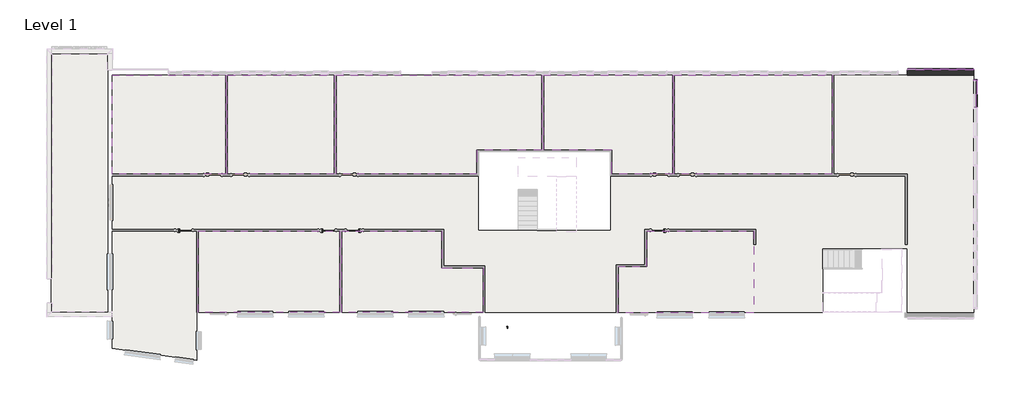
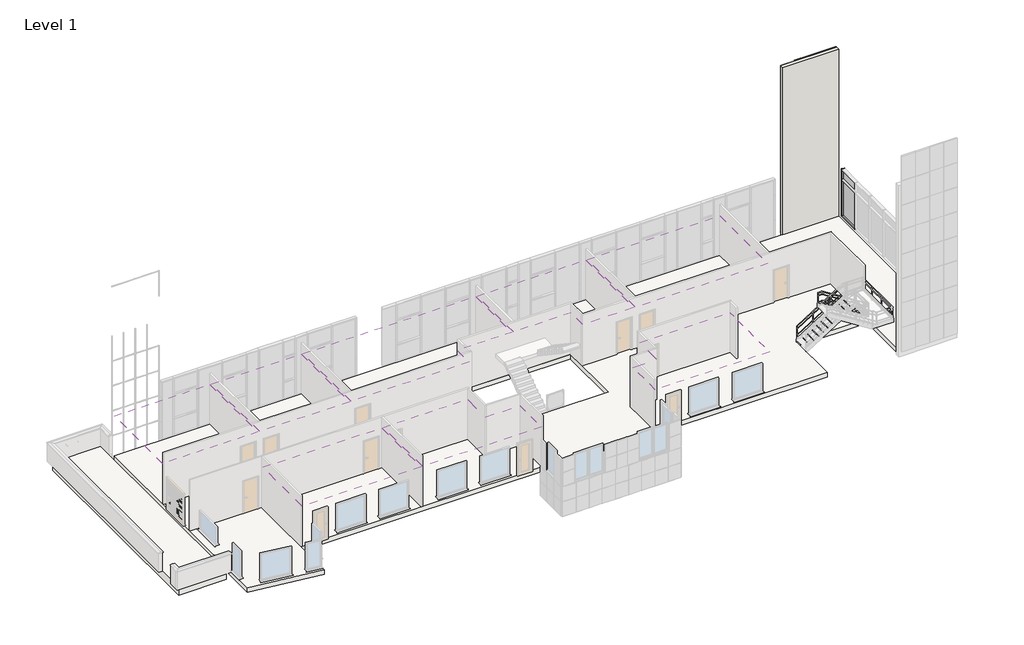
# One storey, part 7 of 10: 56 members, 30 plates, 8 coverings, 1 proxy, 1 roof, 1 slab, 1 wall.
"""IFC4 building model written with IfcOpenShell, lengths in millimetres."""

from ifc_helpers import new_model, si_unit, frame, origin, place, context, project, spatial, polyline, outline, extrude, faceted_brep, transform, mapped, element, save
from components import support_metal_circular_standard_a779fbb7, rectangular_mullion_25x25mm_3039a083, rectangular_mullion_25x25mm_fa774699, rectangular_mullion_25x25mm_154c87ff, rectangular_mullion_25x25mm_39486c0a, rectangular_mullion_25x25mm_7ca17579, rectangular_mullion_25x25mm_da6cf454, rectangular_mullion_25x25mm_b3a713a3, rectangular_mullion_50x180mm_b21090a6, rectangular_mullion_50x180mm_1be9a22b, rectangular_mullion_50x180mm_f9fd6882, curtain_panels_solid_solid_panel_green_a5cb1202, system_panel_glazed_206f5d08, system_panel_glazed_f3953a00

model = new_model("IFC4")

# Units and contexts
model_context = context("Model", 3, world=origin())
ifc_project = project(units=[si_unit("LENGTHUNIT", "METRE", prefix="MILLI")], contexts=[model_context])

# Site, building, storey
site = spatial("IfcSite", under=ifc_project)
building = spatial("IfcBuilding", under=site)
storey = spatial("IfcBuildingStorey", under=building, Name="Level 1", Elevation=3750.0)

# Proxy
placement = place(None, origin())
support_metal_circular_standard_shape = support_metal_circular_standard_a779fbb7(model_context)
element("IfcBuildingElementProxy", 1, Name="Support-Metal-Circular : Standard", ObjectType="Support-Metal-Circular : Standard", at=placement, inside=storey, context=model_context, shape_type="MappedRepresentation", body=[
    mapped(support_metal_circular_standard_shape, transform((18998.2942367, -4075.5053409, 3755.0), x_axis=(1.0, 0.0, 0.0), y_axis=(0.0, 1.0, 0.0), z_axis=(0.0, 0.0, 1.0))),
])

# Coverings
element("IfcCovering", 2, ObjectType="600x600mm_Grid", at=placement, inside=storey, context=model_context, shape_type="SweptSolid", body=[
    extrude(outline(polyline([(-1429.2223222, 3884.8025486), (-1429.2223222, 9007.4946591), (4433.2942367, 9007.4946591), (4433.2942367, 3884.8025486), (-1429.2223222, 3884.8025486)])), frame((0.0, 0.0, 6350.0), z_axis=(0.0, 0.0, 1.0), x_axis=(1.0, 0.0, 0.0)), (0.0, 0.0, 1.0), 52.0),
])
element("IfcCovering", 3, ObjectType="600x600mm_Grid", at=placement, inside=storey, context=model_context, shape_type="SweptSolid", body=[
    extrude(outline(polyline([(4528.2942367, 9007.4946591), (10058.2942367, 9007.4946591), (10058.2942367, 3884.8025486), (4528.2942367, 3884.8025486), (4528.2942367, 9007.4946591)])), frame((0.0, 0.0, 6350.0), z_axis=(0.0, 0.0, 1.0), x_axis=(1.0, 0.0, 0.0)), (0.0, 0.0, 1.0), 52.0),
])
element("IfcCovering", 4, ObjectType="600x600mm_Grid", at=placement, inside=storey, context=model_context, shape_type="SweptSolid", body=[
    extrude(outline(polyline([(10153.2942367, 9007.4946591), (20770.7942367, 9007.4946591), (20770.7942367, 5143.5025486), (17410.7942367, 5143.5025486), (17410.7942367, 3884.8025486), (10153.2942367, 3884.8025486), (10153.2942367, 9007.4946591)])), frame((0.0, 0.0, 6350.0), z_axis=(0.0, 0.0, 1.0), x_axis=(1.0, 0.0, 0.0)), (0.0, 0.0, 1.0), 52.0),
])
element("IfcCovering", 5, ObjectType="600x600mm_Grid", at=placement, inside=storey, context=model_context, shape_type="SweptSolid", body=[
    extrude(outline(polyline([(20865.7942367, 9007.4946591), (27533.2942367, 9007.4946591), (27533.2942367, 3884.8025486), (24393.2942367, 3884.8025486), (24393.2942367, 5143.5025486), (20865.7942367, 5143.5025486), (20865.7942367, 9007.4946591)])), frame((0.0, 0.0, 6350.0), z_axis=(0.0, 0.0, 1.0), x_axis=(1.0, 0.0, 0.0)), (0.0, 0.0, 1.0), 52.0),
])
element("IfcCovering", 6, ObjectType="600x600mm_Grid", at=placement, inside=storey, context=model_context, shape_type="SweptSolid", body=[
    extrude(outline(polyline([(27628.2942367, 9007.4946591), (35770.7942367, 9007.4946591), (35770.7942367, 3884.8025486), (27628.2942367, 3884.8025486), (27628.2942367, 9007.4946591)])), frame((0.0, 0.0, 6350.0), z_axis=(0.0, 0.0, 1.0), x_axis=(1.0, 0.0, 0.0)), (0.0, 0.0, 1.0), 52.0),
])
element("IfcCovering", 7, ObjectType="600x600mm_Grid", at=placement, inside=storey, context=model_context, shape_type="SweptSolid", body=[
    extrude(outline(polyline([(10335.7942367, 939.9946591), (10335.7942367, -3259.5053409), (3030.7942367, -3259.5053409), (3030.7942367, 939.9946591), (10335.7942367, 939.9946591)])), frame((0.0, 0.0, 6350.0), z_axis=(0.0, 0.0, 1.0), x_axis=(1.0, 0.0, 0.0)), (0.0, 0.0, 1.0), 52.0),
])
element("IfcCovering", 8, ObjectType="600x600mm_Grid", at=placement, inside=storey, context=model_context, shape_type="SweptSolid", body=[
    extrude(outline(polyline([(17735.7942367, -3259.5053409), (10430.7942367, -3259.5053409), (10430.7942367, 939.9946591), (15610.7942367, 939.9946591), (15610.7942367, -955.0053409), (17735.7942367, -955.0053409), (17735.7942367, -3259.5053409)])), frame((0.0, 0.0, 6350.0), z_axis=(0.0, 0.0, 1.0), x_axis=(1.0, 0.0, 0.0)), (0.0, 0.0, 1.0), 52.0),
])
element("IfcCovering", 9, ObjectType="600x600mm_Grid", at=placement, inside=storey, context=model_context, shape_type="SweptSolid", body=[
    extrude(outline(polyline([(31736.4942371, 149.3025492), (31736.4942371, -3285.0053409), (24710.7942367, -3285.0053409), (24710.7942367, -895.6472731), (26193.2942367, -895.6472731), (26193.2942367, 939.9946591), (31736.4942371, 939.9946591), (31736.4942371, 149.3025492)])), frame((0.0, 0.0, 6350.0), z_axis=(0.0, 0.0, 1.0), x_axis=(1.0, 0.0, 0.0)), (0.0, 0.0, 1.0), 52.0),
])

# Members
rectangular_mullion_25x25mm_shape = rectangular_mullion_25x25mm_3039a083(model_context)
element("IfcMember", 10, ObjectType="Rectangular Mullion : 25x25mm", at=placement, inside=storey, context=model_context, shape_type="MappedRepresentation", body=[
    mapped(rectangular_mullion_25x25mm_shape, transform((42227.6692365, 9282.4946591, 3775.0), x_axis=(-1.0, 0.0, 0.0), y_axis=(0.0, 1.0, 0.0), z_axis=(0.0, 0.0, -1.0))),
])
element("IfcMember", 11, ObjectType="Rectangular Mullion : 25x25mm", at=placement, inside=storey, context=model_context, shape_type="MappedRepresentation", body=[
    mapped(rectangular_mullion_25x25mm_shape, transform((41374.5442367, 9282.4946591, 3775.0), x_axis=(-1.0, 0.0, 0.0), y_axis=(0.0, 1.0, 0.0), z_axis=(0.0, 0.0, -1.0))),
])
element("IfcMember", 12, ObjectType="Rectangular Mullion : 25x25mm", at=placement, inside=storey, context=model_context, shape_type="MappedRepresentation", body=[
    mapped(rectangular_mullion_25x25mm_shape, transform((40521.4192368, 9282.4946591, 3775.0), x_axis=(-1.0, 0.0, 0.0), y_axis=(0.0, 1.0, 0.0), z_axis=(0.0, 0.0, -1.0))),
])
rectangular_mullion_25x25mm_2_shape = rectangular_mullion_25x25mm_fa774699(model_context)
element("IfcMember", 13, ObjectType="Rectangular Mullion : 25x25mm", at=placement, inside=storey, context=model_context, shape_type="MappedRepresentation", body=[
    mapped(rectangular_mullion_25x25mm_2_shape, transform((42227.6692365, 9282.4946591, 5308.9285714), x_axis=(-1.0, 0.0, 0.0), y_axis=(0.0, 1.0, 0.0), z_axis=(0.0, 0.0, -1.0))),
])
element("IfcMember", 14, ObjectType="Rectangular Mullion : 25x25mm", at=placement, inside=storey, context=model_context, shape_type="MappedRepresentation", body=[
    mapped(rectangular_mullion_25x25mm_2_shape, transform((42227.6692365, 9282.4946591, 6855.3571429), x_axis=(-1.0, 0.0, 0.0), y_axis=(0.0, 1.0, 0.0), z_axis=(0.0, 0.0, -1.0))),
])
element("IfcMember", 15, ObjectType="Rectangular Mullion : 25x25mm", at=placement, inside=storey, context=model_context, shape_type="MappedRepresentation", body=[
    mapped(rectangular_mullion_25x25mm_2_shape, transform((42227.6692365, 9282.4946591, 8401.7857143), x_axis=(-1.0, 0.0, 0.0), y_axis=(0.0, 1.0, 0.0), z_axis=(0.0, 0.0, -1.0))),
])
element("IfcMember", 16, ObjectType="Rectangular Mullion : 25x25mm", at=placement, inside=storey, context=model_context, shape_type="MappedRepresentation", body=[
    mapped(rectangular_mullion_25x25mm_2_shape, transform((42227.6692365, 9282.4946591, 9948.2142857), x_axis=(-1.0, 0.0, 0.0), y_axis=(0.0, 1.0, 0.0), z_axis=(0.0, 0.0, -1.0))),
])
element("IfcMember", 17, ObjectType="Rectangular Mullion : 25x25mm", at=placement, inside=storey, context=model_context, shape_type="MappedRepresentation", body=[
    mapped(rectangular_mullion_25x25mm_2_shape, transform((41374.5442367, 9282.4946591, 5308.9285714), x_axis=(-1.0, 0.0, 0.0), y_axis=(0.0, 1.0, 0.0), z_axis=(0.0, 0.0, -1.0))),
])
element("IfcMember", 18, ObjectType="Rectangular Mullion : 25x25mm", at=placement, inside=storey, context=model_context, shape_type="MappedRepresentation", body=[
    mapped(rectangular_mullion_25x25mm_2_shape, transform((41374.5442367, 9282.4946591, 6855.3571429), x_axis=(-1.0, 0.0, 0.0), y_axis=(0.0, 1.0, 0.0), z_axis=(0.0, 0.0, -1.0))),
])
element("IfcMember", 19, ObjectType="Rectangular Mullion : 25x25mm", at=placement, inside=storey, context=model_context, shape_type="MappedRepresentation", body=[
    mapped(rectangular_mullion_25x25mm_2_shape, transform((41374.5442367, 9282.4946591, 8401.7857143), x_axis=(-1.0, 0.0, 0.0), y_axis=(0.0, 1.0, 0.0), z_axis=(0.0, 0.0, -1.0))),
])
element("IfcMember", 20, ObjectType="Rectangular Mullion : 25x25mm", at=placement, inside=storey, context=model_context, shape_type="MappedRepresentation", body=[
    mapped(rectangular_mullion_25x25mm_2_shape, transform((41374.5442367, 9282.4946591, 9948.2142857), x_axis=(-1.0, 0.0, 0.0), y_axis=(0.0, 1.0, 0.0), z_axis=(0.0, 0.0, -1.0))),
])
element("IfcMember", 21, ObjectType="Rectangular Mullion : 25x25mm", at=placement, inside=storey, context=model_context, shape_type="MappedRepresentation", body=[
    mapped(rectangular_mullion_25x25mm_2_shape, transform((40521.4192368, 9282.4946591, 5308.9285714), x_axis=(-1.0, 0.0, 0.0), y_axis=(0.0, 1.0, 0.0), z_axis=(0.0, 0.0, -1.0))),
])
element("IfcMember", 22, ObjectType="Rectangular Mullion : 25x25mm", at=placement, inside=storey, context=model_context, shape_type="MappedRepresentation", body=[
    mapped(rectangular_mullion_25x25mm_2_shape, transform((40521.4192368, 9282.4946591, 6855.3571429), x_axis=(-1.0, 0.0, 0.0), y_axis=(0.0, 1.0, 0.0), z_axis=(0.0, 0.0, -1.0))),
])
element("IfcMember", 23, ObjectType="Rectangular Mullion : 25x25mm", at=placement, inside=storey, context=model_context, shape_type="MappedRepresentation", body=[
    mapped(rectangular_mullion_25x25mm_2_shape, transform((40521.4192368, 9282.4946591, 8401.7857143), x_axis=(-1.0, 0.0, 0.0), y_axis=(0.0, 1.0, 0.0), z_axis=(0.0, 0.0, -1.0))),
])
element("IfcMember", 24, ObjectType="Rectangular Mullion : 25x25mm", at=placement, inside=storey, context=model_context, shape_type="MappedRepresentation", body=[
    mapped(rectangular_mullion_25x25mm_2_shape, transform((40521.4192368, 9282.4946591, 9948.2142857), x_axis=(-1.0, 0.0, 0.0), y_axis=(0.0, 1.0, 0.0), z_axis=(0.0, 0.0, -1.0))),
])
element("IfcMember", 25, ObjectType="Rectangular Mullion : 25x25mm", at=placement, inside=storey, context=model_context, shape_type="MappedRepresentation", body=[
    mapped(rectangular_mullion_25x25mm_2_shape, transform((42227.6692365, 9282.4946591, 11494.6428571), x_axis=(-1.0, 0.0, 0.0), y_axis=(0.0, 1.0, 0.0), z_axis=(0.0, 0.0, -1.0))),
])
element("IfcMember", 26, ObjectType="Rectangular Mullion : 25x25mm", at=placement, inside=storey, context=model_context, shape_type="MappedRepresentation", body=[
    mapped(rectangular_mullion_25x25mm_2_shape, transform((41374.5442367, 9282.4946591, 11494.6428571), x_axis=(-1.0, 0.0, 0.0), y_axis=(0.0, 1.0, 0.0), z_axis=(0.0, 0.0, -1.0))),
])
element("IfcMember", 27, ObjectType="Rectangular Mullion : 25x25mm", at=placement, inside=storey, context=model_context, shape_type="MappedRepresentation", body=[
    mapped(rectangular_mullion_25x25mm_2_shape, transform((40521.4192368, 9282.4946591, 11494.6428571), x_axis=(-1.0, 0.0, 0.0), y_axis=(0.0, 1.0, 0.0), z_axis=(0.0, 0.0, -1.0))),
])
element("IfcMember", 28, ObjectType="Rectangular Mullion : 25x25mm", at=placement, inside=storey, context=model_context, shape_type="MappedRepresentation", body=[
    mapped(rectangular_mullion_25x25mm_shape, transform((42227.6692365, 9282.4946591, 13041.0714286), x_axis=(-1.0, 0.0, 0.0), y_axis=(0.0, 1.0, 0.0), z_axis=(0.0, 0.0, -1.0))),
])
element("IfcMember", 29, ObjectType="Rectangular Mullion : 25x25mm", at=placement, inside=storey, context=model_context, shape_type="MappedRepresentation", body=[
    mapped(rectangular_mullion_25x25mm_shape, transform((41374.5442367, 9282.4946591, 13041.0714286), x_axis=(-1.0, 0.0, 0.0), y_axis=(0.0, 1.0, 0.0), z_axis=(0.0, 0.0, -1.0))),
])
element("IfcMember", 30, ObjectType="Rectangular Mullion : 25x25mm", at=placement, inside=storey, context=model_context, shape_type="MappedRepresentation", body=[
    mapped(rectangular_mullion_25x25mm_shape, transform((40521.4192368, 9282.4946591, 13041.0714286), x_axis=(-1.0, 0.0, 0.0), y_axis=(0.0, 1.0, 0.0), z_axis=(0.0, 0.0, -1.0))),
])
rectangular_mullion_25x25mm_3_shape = rectangular_mullion_25x25mm_154c87ff(model_context)
element("IfcMember", 31, ObjectType="Rectangular Mullion : 25x25mm", at=placement, inside=storey, context=model_context, shape_type="MappedRepresentation", body=[
    mapped(rectangular_mullion_25x25mm_3_shape, transform((43093.2942367, 9282.4946591, 14575.0), x_axis=(1.0, 0.0, 0.0), y_axis=(0.0, 1.0, 0.0), z_axis=(0.0, 0.0, 1.0))),
])
element("IfcMember", 32, ObjectType="Rectangular Mullion : 25x25mm", at=placement, inside=storey, context=model_context, shape_type="MappedRepresentation", body=[
    mapped(rectangular_mullion_25x25mm_3_shape, transform((43093.2942367, 9282.4946591, 5308.9285714), x_axis=(1.0, 0.0, 0.0), y_axis=(0.0, 1.0, 0.0), z_axis=(0.0, 0.0, 1.0))),
])
rectangular_mullion_25x25mm_4_shape = rectangular_mullion_25x25mm_39486c0a(model_context)
element("IfcMember", 33, ObjectType="Rectangular Mullion : 25x25mm", at=placement, inside=storey, context=model_context, shape_type="MappedRepresentation", body=[
    mapped(rectangular_mullion_25x25mm_4_shape, transform((43093.2942367, 9282.4946591, 6855.3571429), x_axis=(1.0, 0.0, 0.0), y_axis=(0.0, 1.0, 0.0), z_axis=(0.0, 0.0, 1.0))),
])
element("IfcMember", 34, ObjectType="Rectangular Mullion : 25x25mm", at=placement, inside=storey, context=model_context, shape_type="MappedRepresentation", body=[
    mapped(rectangular_mullion_25x25mm_4_shape, transform((43093.2942367, 9282.4946591, 8401.7857143), x_axis=(1.0, 0.0, 0.0), y_axis=(0.0, 1.0, 0.0), z_axis=(0.0, 0.0, 1.0))),
])
element("IfcMember", 35, ObjectType="Rectangular Mullion : 25x25mm", at=placement, inside=storey, context=model_context, shape_type="MappedRepresentation", body=[
    mapped(rectangular_mullion_25x25mm_4_shape, transform((43093.2942367, 9282.4946591, 9948.2142857), x_axis=(1.0, 0.0, 0.0), y_axis=(0.0, 1.0, 0.0), z_axis=(0.0, 0.0, 1.0))),
])
element("IfcMember", 36, ObjectType="Rectangular Mullion : 25x25mm", at=placement, inside=storey, context=model_context, shape_type="MappedRepresentation", body=[
    mapped(rectangular_mullion_25x25mm_4_shape, transform((43093.2942367, 9282.4946591, 11494.6428571), x_axis=(1.0, 0.0, 0.0), y_axis=(0.0, 1.0, 0.0), z_axis=(0.0, 0.0, 1.0))),
])
element("IfcMember", 37, ObjectType="Rectangular Mullion : 25x25mm", at=placement, inside=storey, context=model_context, shape_type="MappedRepresentation", body=[
    mapped(rectangular_mullion_25x25mm_4_shape, transform((43093.2942367, 9282.4946591, 13041.0714286), x_axis=(1.0, 0.0, 0.0), y_axis=(0.0, 1.0, 0.0), z_axis=(0.0, 0.0, 1.0))),
])
rectangular_mullion_25x25mm_5_shape = rectangular_mullion_25x25mm_7ca17579(model_context)
element("IfcMember", 38, ObjectType="Rectangular Mullion : 25x25mm", at=placement, inside=storey, context=model_context, shape_type="MappedRepresentation", body=[
    mapped(rectangular_mullion_25x25mm_5_shape, transform((42227.6692365, 9282.4946591, 14600.0), x_axis=(0.0, 0.0, 1.0), y_axis=(0.0, 1.0, 0.0), z_axis=(-1.0, 0.0, 0.0))),
])
rectangular_mullion_25x25mm_6_shape = rectangular_mullion_25x25mm_da6cf454(model_context)
element("IfcMember", 39, ObjectType="Rectangular Mullion : 25x25mm", at=placement, inside=storey, context=model_context, shape_type="MappedRepresentation", body=[
    mapped(rectangular_mullion_25x25mm_6_shape, transform((41374.5442367, 9282.4946591, 14600.0), x_axis=(0.0, 0.0, 1.0), y_axis=(0.0, 1.0, 0.0), z_axis=(-1.0, 0.0, 0.0))),
])
element("IfcMember", 40, ObjectType="Rectangular Mullion : 25x25mm", at=placement, inside=storey, context=model_context, shape_type="MappedRepresentation", body=[
    mapped(rectangular_mullion_25x25mm_6_shape, transform((40521.4192368, 9282.4946591, 14600.0), x_axis=(0.0, 0.0, 1.0), y_axis=(0.0, 1.0, 0.0), z_axis=(-1.0, 0.0, 0.0))),
])
element("IfcMember", 41, ObjectType="Rectangular Mullion : 25x25mm", at=placement, inside=storey, context=model_context, shape_type="MappedRepresentation", body=[
    mapped(rectangular_mullion_25x25mm_5_shape, transform((43093.2942367, 9282.4946591, 3750.0), x_axis=(0.0, 0.0, -1.0), y_axis=(0.0, 1.0, 0.0), z_axis=(1.0, 0.0, 0.0))),
])
element("IfcMember", 42, ObjectType="Rectangular Mullion : 25x25mm", at=placement, inside=storey, context=model_context, shape_type="MappedRepresentation", body=[
    mapped(rectangular_mullion_25x25mm_6_shape, transform((42227.6692365, 9282.4946591, 3750.0), x_axis=(0.0, 0.0, -1.0), y_axis=(0.0, 1.0, 0.0), z_axis=(1.0, 0.0, 0.0))),
])
element("IfcMember", 43, ObjectType="Rectangular Mullion : 25x25mm", at=placement, inside=storey, context=model_context, shape_type="MappedRepresentation", body=[
    mapped(rectangular_mullion_25x25mm_6_shape, transform((41374.5442367, 9282.4946591, 3750.0), x_axis=(0.0, 0.0, -1.0), y_axis=(0.0, 1.0, 0.0), z_axis=(1.0, 0.0, 0.0))),
])
element("IfcMember", 44, ObjectType="Rectangular Mullion : 25x25mm", at=placement, inside=storey, context=model_context, shape_type="MappedRepresentation", body=[
    mapped(rectangular_mullion_25x25mm_5_shape, transform((40521.4192368, 9282.4946591, 3750.0), x_axis=(0.0, 0.0, -1.0), y_axis=(0.0, 1.0, 0.0), z_axis=(1.0, 0.0, 0.0))),
])
rectangular_mullion_25x25mm_7_shape = rectangular_mullion_25x25mm_b3a713a3(model_context)
element("IfcMember", 45, ObjectType="Rectangular Mullion : 25x25mm", at=placement, inside=storey, context=model_context, shape_type="MappedRepresentation", body=[
    mapped(rectangular_mullion_25x25mm_7_shape, transform((42240.1692365, 9282.4946591, 5308.9285714), x_axis=(0.0, 0.0, 1.0), y_axis=(0.0, 1.0, 0.0), z_axis=(-1.0, 0.0, 0.0))),
])
element("IfcMember", 46, ObjectType="Rectangular Mullion : 25x25mm", at=placement, inside=storey, context=model_context, shape_type="MappedRepresentation", body=[
    mapped(rectangular_mullion_25x25mm_7_shape, transform((41387.0442367, 9282.4946591, 5308.9285714), x_axis=(0.0, 0.0, 1.0), y_axis=(0.0, 1.0, 0.0), z_axis=(-1.0, 0.0, 0.0))),
])
element("IfcMember", 47, ObjectType="Rectangular Mullion : 25x25mm", at=placement, inside=storey, context=model_context, shape_type="MappedRepresentation", body=[
    mapped(rectangular_mullion_25x25mm_7_shape, transform((40533.9192368, 9282.4946591, 5308.9285714), x_axis=(0.0, 0.0, 1.0), y_axis=(0.0, 1.0, 0.0), z_axis=(-1.0, 0.0, 0.0))),
])
element("IfcMember", 48, ObjectType="Rectangular Mullion : 25x25mm", at=placement, inside=storey, context=model_context, shape_type="MappedRepresentation", body=[
    mapped(rectangular_mullion_25x25mm_7_shape, transform((42240.1692365, 9282.4946591, 6855.3571429), x_axis=(0.0, 0.0, 1.0), y_axis=(0.0, 1.0, 0.0), z_axis=(-1.0, 0.0, 0.0))),
])
element("IfcMember", 49, ObjectType="Rectangular Mullion : 25x25mm", at=placement, inside=storey, context=model_context, shape_type="MappedRepresentation", body=[
    mapped(rectangular_mullion_25x25mm_7_shape, transform((41387.0442367, 9282.4946591, 6855.3571429), x_axis=(0.0, 0.0, 1.0), y_axis=(0.0, 1.0, 0.0), z_axis=(-1.0, 0.0, 0.0))),
])
element("IfcMember", 50, ObjectType="Rectangular Mullion : 25x25mm", at=placement, inside=storey, context=model_context, shape_type="MappedRepresentation", body=[
    mapped(rectangular_mullion_25x25mm_7_shape, transform((40533.9192368, 9282.4946591, 6855.3571429), x_axis=(0.0, 0.0, 1.0), y_axis=(0.0, 1.0, 0.0), z_axis=(-1.0, 0.0, 0.0))),
])
element("IfcMember", 51, ObjectType="Rectangular Mullion : 25x25mm", at=placement, inside=storey, context=model_context, shape_type="MappedRepresentation", body=[
    mapped(rectangular_mullion_25x25mm_7_shape, transform((42240.1692365, 9282.4946591, 8401.7857143), x_axis=(0.0, 0.0, 1.0), y_axis=(0.0, 1.0, 0.0), z_axis=(-1.0, 0.0, 0.0))),
])
element("IfcMember", 52, ObjectType="Rectangular Mullion : 25x25mm", at=placement, inside=storey, context=model_context, shape_type="MappedRepresentation", body=[
    mapped(rectangular_mullion_25x25mm_7_shape, transform((41387.0442367, 9282.4946591, 8401.7857143), x_axis=(0.0, 0.0, 1.0), y_axis=(0.0, 1.0, 0.0), z_axis=(-1.0, 0.0, 0.0))),
])
element("IfcMember", 53, ObjectType="Rectangular Mullion : 25x25mm", at=placement, inside=storey, context=model_context, shape_type="MappedRepresentation", body=[
    mapped(rectangular_mullion_25x25mm_7_shape, transform((40533.9192368, 9282.4946591, 8401.7857143), x_axis=(0.0, 0.0, 1.0), y_axis=(0.0, 1.0, 0.0), z_axis=(-1.0, 0.0, 0.0))),
])
element("IfcMember", 54, ObjectType="Rectangular Mullion : 25x25mm", at=placement, inside=storey, context=model_context, shape_type="MappedRepresentation", body=[
    mapped(rectangular_mullion_25x25mm_7_shape, transform((42240.1692365, 9282.4946591, 9948.2142857), x_axis=(0.0, 0.0, 1.0), y_axis=(0.0, 1.0, 0.0), z_axis=(-1.0, 0.0, 0.0))),
])
element("IfcMember", 55, ObjectType="Rectangular Mullion : 25x25mm", at=placement, inside=storey, context=model_context, shape_type="MappedRepresentation", body=[
    mapped(rectangular_mullion_25x25mm_7_shape, transform((41387.0442367, 9282.4946591, 9948.2142857), x_axis=(0.0, 0.0, 1.0), y_axis=(0.0, 1.0, 0.0), z_axis=(-1.0, 0.0, 0.0))),
])
element("IfcMember", 56, ObjectType="Rectangular Mullion : 25x25mm", at=placement, inside=storey, context=model_context, shape_type="MappedRepresentation", body=[
    mapped(rectangular_mullion_25x25mm_7_shape, transform((40533.9192368, 9282.4946591, 9948.2142857), x_axis=(0.0, 0.0, 1.0), y_axis=(0.0, 1.0, 0.0), z_axis=(-1.0, 0.0, 0.0))),
])
element("IfcMember", 57, ObjectType="Rectangular Mullion : 25x25mm", at=placement, inside=storey, context=model_context, shape_type="MappedRepresentation", body=[
    mapped(rectangular_mullion_25x25mm_7_shape, transform((42240.1692365, 9282.4946591, 11494.6428571), x_axis=(0.0, 0.0, 1.0), y_axis=(0.0, 1.0, 0.0), z_axis=(-1.0, 0.0, 0.0))),
])
element("IfcMember", 58, ObjectType="Rectangular Mullion : 25x25mm", at=placement, inside=storey, context=model_context, shape_type="MappedRepresentation", body=[
    mapped(rectangular_mullion_25x25mm_7_shape, transform((41387.0442367, 9282.4946591, 11494.6428571), x_axis=(0.0, 0.0, 1.0), y_axis=(0.0, 1.0, 0.0), z_axis=(-1.0, 0.0, 0.0))),
])
element("IfcMember", 59, ObjectType="Rectangular Mullion : 25x25mm", at=placement, inside=storey, context=model_context, shape_type="MappedRepresentation", body=[
    mapped(rectangular_mullion_25x25mm_7_shape, transform((40533.9192368, 9282.4946591, 11494.6428571), x_axis=(0.0, 0.0, 1.0), y_axis=(0.0, 1.0, 0.0), z_axis=(-1.0, 0.0, 0.0))),
])
element("IfcMember", 60, ObjectType="Rectangular Mullion : 25x25mm", at=placement, inside=storey, context=model_context, shape_type="MappedRepresentation", body=[
    mapped(rectangular_mullion_25x25mm_7_shape, transform((42240.1692365, 9282.4946591, 13041.0714286), x_axis=(0.0, 0.0, 1.0), y_axis=(0.0, 1.0, 0.0), z_axis=(-1.0, 0.0, 0.0))),
])
element("IfcMember", 61, ObjectType="Rectangular Mullion : 25x25mm", at=placement, inside=storey, context=model_context, shape_type="MappedRepresentation", body=[
    mapped(rectangular_mullion_25x25mm_7_shape, transform((41387.0442367, 9282.4946591, 13041.0714286), x_axis=(0.0, 0.0, 1.0), y_axis=(0.0, 1.0, 0.0), z_axis=(-1.0, 0.0, 0.0))),
])
element("IfcMember", 62, ObjectType="Rectangular Mullion : 25x25mm", at=placement, inside=storey, context=model_context, shape_type="MappedRepresentation", body=[
    mapped(rectangular_mullion_25x25mm_7_shape, transform((40533.9192368, 9282.4946591, 13041.0714286), x_axis=(0.0, 0.0, 1.0), y_axis=(0.0, 1.0, 0.0), z_axis=(-1.0, 0.0, 0.0))),
])
rectangular_mullion_50x180mm_shape = rectangular_mullion_50x180mm_b21090a6(model_context)
element("IfcMember", 63, ObjectType="Rectangular Mullion : 50x180mm", at=placement, inside=storey, context=model_context, shape_type="MappedRepresentation", body=[
    mapped(rectangular_mullion_50x180mm_shape, transform((43193.2942367, 8772.4946591, 6300.0), x_axis=(0.0, 1.0, 0.0), y_axis=(-1.0, 0.0, 0.0), z_axis=(0.0, 0.0, 1.0))),
])
rectangular_mullion_50x180mm_2_shape = rectangular_mullion_50x180mm_1be9a22b(model_context)
element("IfcMember", 64, ObjectType="Rectangular Mullion : 50x180mm", at=placement, inside=storey, context=model_context, shape_type="MappedRepresentation", body=[
    mapped(rectangular_mullion_50x180mm_2_shape, transform((43193.2942367, 8722.4946591, 3900.0), x_axis=(0.0, 0.0, -1.0), y_axis=(-1.0, 0.0, 0.0), z_axis=(0.0, 1.0, 0.0))),
])
rectangular_mullion_50x180mm_3_shape = rectangular_mullion_50x180mm_f9fd6882(model_context)
element("IfcMember", 65, ObjectType="Rectangular Mullion : 50x180mm", at=placement, inside=storey, context=model_context, shape_type="MappedRepresentation", body=[
    mapped(rectangular_mullion_50x180mm_3_shape, transform((43193.2942367, 8772.4946591, 6965.0), x_axis=(0.0, 1.0, 0.0), y_axis=(-1.0, 0.0, 0.0), z_axis=(0.0, 0.0, 1.0))),
])

# Plates
curtain_panels_solid_solid_panel_green_shape = curtain_panels_solid_solid_panel_green_a5cb1202(model_context)
element("IfcPlate", 66, ObjectType="Curtain_Panels_Solid : Solid_Panel_Green", at=placement, inside=storey, context=model_context, shape_type="MappedRepresentation", body=[
    mapped(curtain_panels_solid_solid_panel_green_shape, transform((42654.2317366, 9282.4946591, 3775.0), x_axis=(-1.0, 0.0, 0.0), y_axis=(0.0, -1.0, 0.0), z_axis=(0.0, 0.0, 1.0))),
])
element("IfcPlate", 67, ObjectType="Curtain_Panels_Solid : Solid_Panel_Green", at=placement, inside=storey, context=model_context, shape_type="MappedRepresentation", body=[
    mapped(curtain_panels_solid_solid_panel_green_shape, transform((41801.1067366, 9282.4946591, 3775.0), x_axis=(-1.0, 0.0, 0.0), y_axis=(0.0, -1.0, 0.0), z_axis=(0.0, 0.0, 1.0))),
])
element("IfcPlate", 68, ObjectType="Curtain_Panels_Solid : Solid_Panel_Green", at=placement, inside=storey, context=model_context, shape_type="MappedRepresentation", body=[
    mapped(curtain_panels_solid_solid_panel_green_shape, transform((40947.9817368, 9282.4946591, 3775.0), x_axis=(-1.0, 0.0, 0.0), y_axis=(0.0, -1.0, 0.0), z_axis=(0.0, 0.0, 1.0))),
])
element("IfcPlate", 69, ObjectType="Curtain_Panels_Solid : Solid_Panel_Green", at=placement, inside=storey, context=model_context, shape_type="MappedRepresentation", body=[
    mapped(curtain_panels_solid_solid_panel_green_shape, transform((40094.8567368, 9282.4946591, 3775.0), x_axis=(-1.0, 0.0, 0.0), y_axis=(0.0, -1.0, 0.0), z_axis=(0.0, 0.0, 1.0))),
])
element("IfcPlate", 70, ObjectType="Curtain_Panels_Solid : Solid_Panel_Green", at=placement, inside=storey, context=model_context, shape_type="MappedRepresentation", body=[
    mapped(curtain_panels_solid_solid_panel_green_shape, transform((42654.2317366, 9282.4946591, 5321.4285714), x_axis=(-1.0, 0.0, 0.0), y_axis=(0.0, -1.0, 0.0), z_axis=(0.0, 0.0, 1.0))),
])
element("IfcPlate", 71, ObjectType="Curtain_Panels_Solid : Solid_Panel_Green", at=placement, inside=storey, context=model_context, shape_type="MappedRepresentation", body=[
    mapped(curtain_panels_solid_solid_panel_green_shape, transform((41801.1067366, 9282.4946591, 5321.4285714), x_axis=(-1.0, 0.0, 0.0), y_axis=(0.0, -1.0, 0.0), z_axis=(0.0, 0.0, 1.0))),
])
element("IfcPlate", 72, ObjectType="Curtain_Panels_Solid : Solid_Panel_Green", at=placement, inside=storey, context=model_context, shape_type="MappedRepresentation", body=[
    mapped(curtain_panels_solid_solid_panel_green_shape, transform((40947.9817368, 9282.4946591, 5321.4285714), x_axis=(-1.0, 0.0, 0.0), y_axis=(0.0, -1.0, 0.0), z_axis=(0.0, 0.0, 1.0))),
])
element("IfcPlate", 73, ObjectType="Curtain_Panels_Solid : Solid_Panel_Green", at=placement, inside=storey, context=model_context, shape_type="MappedRepresentation", body=[
    mapped(curtain_panels_solid_solid_panel_green_shape, transform((40094.8567368, 9282.4946591, 5321.4285714), x_axis=(-1.0, 0.0, 0.0), y_axis=(0.0, -1.0, 0.0), z_axis=(0.0, 0.0, 1.0))),
])
element("IfcPlate", 74, ObjectType="Curtain_Panels_Solid : Solid_Panel_Green", at=placement, inside=storey, context=model_context, shape_type="MappedRepresentation", body=[
    mapped(curtain_panels_solid_solid_panel_green_shape, transform((42654.2317366, 9282.4946591, 6867.8571429), x_axis=(-1.0, 0.0, 0.0), y_axis=(0.0, -1.0, 0.0), z_axis=(0.0, 0.0, 1.0))),
])
element("IfcPlate", 75, ObjectType="Curtain_Panels_Solid : Solid_Panel_Green", at=placement, inside=storey, context=model_context, shape_type="MappedRepresentation", body=[
    mapped(curtain_panels_solid_solid_panel_green_shape, transform((41801.1067366, 9282.4946591, 6867.8571429), x_axis=(-1.0, 0.0, 0.0), y_axis=(0.0, -1.0, 0.0), z_axis=(0.0, 0.0, 1.0))),
])
element("IfcPlate", 76, ObjectType="Curtain_Panels_Solid : Solid_Panel_Green", at=placement, inside=storey, context=model_context, shape_type="MappedRepresentation", body=[
    mapped(curtain_panels_solid_solid_panel_green_shape, transform((40947.9817368, 9282.4946591, 6867.8571429), x_axis=(-1.0, 0.0, 0.0), y_axis=(0.0, -1.0, 0.0), z_axis=(0.0, 0.0, 1.0))),
])
element("IfcPlate", 77, ObjectType="Curtain_Panels_Solid : Solid_Panel_Green", at=placement, inside=storey, context=model_context, shape_type="MappedRepresentation", body=[
    mapped(curtain_panels_solid_solid_panel_green_shape, transform((40094.8567368, 9282.4946591, 6867.8571429), x_axis=(-1.0, 0.0, 0.0), y_axis=(0.0, -1.0, 0.0), z_axis=(0.0, 0.0, 1.0))),
])
element("IfcPlate", 78, ObjectType="Curtain_Panels_Solid : Solid_Panel_Green", at=placement, inside=storey, context=model_context, shape_type="MappedRepresentation", body=[
    mapped(curtain_panels_solid_solid_panel_green_shape, transform((42654.2317366, 9282.4946591, 8414.2857143), x_axis=(-1.0, 0.0, 0.0), y_axis=(0.0, -1.0, 0.0), z_axis=(0.0, 0.0, 1.0))),
])
element("IfcPlate", 79, ObjectType="Curtain_Panels_Solid : Solid_Panel_Green", at=placement, inside=storey, context=model_context, shape_type="MappedRepresentation", body=[
    mapped(curtain_panels_solid_solid_panel_green_shape, transform((41801.1067366, 9282.4946591, 8414.2857143), x_axis=(-1.0, 0.0, 0.0), y_axis=(0.0, -1.0, 0.0), z_axis=(0.0, 0.0, 1.0))),
])
element("IfcPlate", 80, ObjectType="Curtain_Panels_Solid : Solid_Panel_Green", at=placement, inside=storey, context=model_context, shape_type="MappedRepresentation", body=[
    mapped(curtain_panels_solid_solid_panel_green_shape, transform((40947.9817368, 9282.4946591, 8414.2857143), x_axis=(-1.0, 0.0, 0.0), y_axis=(0.0, -1.0, 0.0), z_axis=(0.0, 0.0, 1.0))),
])
element("IfcPlate", 81, ObjectType="Curtain_Panels_Solid : Solid_Panel_Green", at=placement, inside=storey, context=model_context, shape_type="MappedRepresentation", body=[
    mapped(curtain_panels_solid_solid_panel_green_shape, transform((40094.8567368, 9282.4946591, 8414.2857143), x_axis=(-1.0, 0.0, 0.0), y_axis=(0.0, -1.0, 0.0), z_axis=(0.0, 0.0, 1.0))),
])
element("IfcPlate", 82, ObjectType="Curtain_Panels_Solid : Solid_Panel_Green", at=placement, inside=storey, context=model_context, shape_type="MappedRepresentation", body=[
    mapped(curtain_panels_solid_solid_panel_green_shape, transform((42654.2317366, 9282.4946591, 9960.7142857), x_axis=(-1.0, 0.0, 0.0), y_axis=(0.0, -1.0, 0.0), z_axis=(0.0, 0.0, 1.0))),
])
element("IfcPlate", 83, ObjectType="Curtain_Panels_Solid : Solid_Panel_Green", at=placement, inside=storey, context=model_context, shape_type="MappedRepresentation", body=[
    mapped(curtain_panels_solid_solid_panel_green_shape, transform((41801.1067366, 9282.4946591, 9960.7142857), x_axis=(-1.0, 0.0, 0.0), y_axis=(0.0, -1.0, 0.0), z_axis=(0.0, 0.0, 1.0))),
])
element("IfcPlate", 84, ObjectType="Curtain_Panels_Solid : Solid_Panel_Green", at=placement, inside=storey, context=model_context, shape_type="MappedRepresentation", body=[
    mapped(curtain_panels_solid_solid_panel_green_shape, transform((40947.9817368, 9282.4946591, 9960.7142857), x_axis=(-1.0, 0.0, 0.0), y_axis=(0.0, -1.0, 0.0), z_axis=(0.0, 0.0, 1.0))),
])
element("IfcPlate", 85, ObjectType="Curtain_Panels_Solid : Solid_Panel_Green", at=placement, inside=storey, context=model_context, shape_type="MappedRepresentation", body=[
    mapped(curtain_panels_solid_solid_panel_green_shape, transform((40094.8567368, 9282.4946591, 9960.7142857), x_axis=(-1.0, 0.0, 0.0), y_axis=(0.0, -1.0, 0.0), z_axis=(0.0, 0.0, 1.0))),
])
element("IfcPlate", 86, ObjectType="Curtain_Panels_Solid : Solid_Panel_Green", at=placement, inside=storey, context=model_context, shape_type="MappedRepresentation", body=[
    mapped(curtain_panels_solid_solid_panel_green_shape, transform((42654.2317366, 9282.4946591, 11507.1428571), x_axis=(-1.0, 0.0, 0.0), y_axis=(0.0, -1.0, 0.0), z_axis=(0.0, 0.0, 1.0))),
])
element("IfcPlate", 87, ObjectType="Curtain_Panels_Solid : Solid_Panel_Green", at=placement, inside=storey, context=model_context, shape_type="MappedRepresentation", body=[
    mapped(curtain_panels_solid_solid_panel_green_shape, transform((41801.1067366, 9282.4946591, 11507.1428571), x_axis=(-1.0, 0.0, 0.0), y_axis=(0.0, -1.0, 0.0), z_axis=(0.0, 0.0, 1.0))),
])
element("IfcPlate", 88, ObjectType="Curtain_Panels_Solid : Solid_Panel_Green", at=placement, inside=storey, context=model_context, shape_type="MappedRepresentation", body=[
    mapped(curtain_panels_solid_solid_panel_green_shape, transform((40947.9817368, 9282.4946591, 11507.1428571), x_axis=(-1.0, 0.0, 0.0), y_axis=(0.0, -1.0, 0.0), z_axis=(0.0, 0.0, 1.0))),
])
element("IfcPlate", 89, ObjectType="Curtain_Panels_Solid : Solid_Panel_Green", at=placement, inside=storey, context=model_context, shape_type="MappedRepresentation", body=[
    mapped(curtain_panels_solid_solid_panel_green_shape, transform((40094.8567368, 9282.4946591, 11507.1428571), x_axis=(-1.0, 0.0, 0.0), y_axis=(0.0, -1.0, 0.0), z_axis=(0.0, 0.0, 1.0))),
])
element("IfcPlate", 90, ObjectType="Curtain_Panels_Solid : Solid_Panel_Green", at=placement, inside=storey, context=model_context, shape_type="MappedRepresentation", body=[
    mapped(curtain_panels_solid_solid_panel_green_shape, transform((42654.2317366, 9282.4946591, 13053.5714286), x_axis=(-1.0, 0.0, 0.0), y_axis=(0.0, -1.0, 0.0), z_axis=(0.0, 0.0, 1.0))),
])
element("IfcPlate", 91, ObjectType="Curtain_Panels_Solid : Solid_Panel_Green", at=placement, inside=storey, context=model_context, shape_type="MappedRepresentation", body=[
    mapped(curtain_panels_solid_solid_panel_green_shape, transform((41801.1067366, 9282.4946591, 13053.5714286), x_axis=(-1.0, 0.0, 0.0), y_axis=(0.0, -1.0, 0.0), z_axis=(0.0, 0.0, 1.0))),
])
element("IfcPlate", 92, ObjectType="Curtain_Panels_Solid : Solid_Panel_Green", at=placement, inside=storey, context=model_context, shape_type="MappedRepresentation", body=[
    mapped(curtain_panels_solid_solid_panel_green_shape, transform((40947.9817368, 9282.4946591, 13053.5714286), x_axis=(-1.0, 0.0, 0.0), y_axis=(0.0, -1.0, 0.0), z_axis=(0.0, 0.0, 1.0))),
])
element("IfcPlate", 93, ObjectType="Curtain_Panels_Solid : Solid_Panel_Green", at=placement, inside=storey, context=model_context, shape_type="MappedRepresentation", body=[
    mapped(curtain_panels_solid_solid_panel_green_shape, transform((40094.8567368, 9282.4946591, 13053.5714286), x_axis=(-1.0, 0.0, 0.0), y_axis=(0.0, -1.0, 0.0), z_axis=(0.0, 0.0, 1.0))),
])
system_panel_glazed_shape = system_panel_glazed_206f5d08(model_context)
element("IfcPlate", 94, ObjectType="System Panel : Glazed", at=placement, inside=storey, context=model_context, shape_type="MappedRepresentation", body=[
    mapped(system_panel_glazed_shape, transform((43193.2942367, 8018.588409, 3950.0), x_axis=(0.0, -1.0, 0.0), y_axis=(1.0, 0.0, 0.0), z_axis=(0.0, 0.0, 1.0))),
])
system_panel_glazed_2_shape = system_panel_glazed_f3953a00(model_context)
element("IfcPlate", 95, ObjectType="System Panel : Glazed", at=placement, inside=storey, context=model_context, shape_type="MappedRepresentation", body=[
    mapped(system_panel_glazed_2_shape, transform((43193.2942367, 8018.588409, 6325.0), x_axis=(0.0, -1.0, 0.0), y_axis=(1.0, 0.0, 0.0), z_axis=(0.0, 0.0, 1.0))),
])

# Roof
element("IfcRoof", 96, ObjectType="Roof_Pitched-50SS-220Ins-20MPan-225Purl", at=placement, inside=storey, context=model_context, shape_type="SweptSolid", body=[
    extrude(outline(polyline([(-4569.2057633, 10124.9946591), (-1644.2223222, 10124.9946591), (-1644.2223222, -3260.0053409), (-4569.2057633, -3260.0053409), (-4569.2057633, 10124.9946591)])), frame((0.0, 0.0, 3235.0), z_axis=(0.0, 0.0, 1.0), x_axis=(1.0, 0.0, 0.0)), (0.0, 0.0, 1.0), 515.0),
])

# Slab
element("IfcSlab", 97, ObjectType="Flr-Int-300mm", at=placement, inside=storey, context=model_context, shape_type="Brep", body=[
    faceted_brep([(43093.2942367, 9007.4946591, 3450.0), (43093.2942367, -3285.0053409, 3450.0), (39655.7942367, -3285.0053409, 3450.0), (39655.7942367, 41.8025492, 3450.0), (35285.7942367, 41.8025492, 3450.0), (35285.7942367, -3259.5053409, 3450.0), (2935.2942367, -3259.5053409, 3450.0), (2935.2942367, -5743.2655529, 3450.0), (-1429.2223222, -5129.8727526, 3450.0), (-1429.2223222, 9007.4946591, 3450.0), (24298.2942367, 5048.5025486, 3450.0), (17505.7942367, 5048.5025486, 3450.0), (17505.7942367, 999.3527269, 3450.0), (24298.2942367, 999.3527269, 3450.0), (43093.2942367, 9007.4946591, 3750.0), (-1429.2223222, 9007.4946591, 3750.0), (-1429.2223222, -5129.8727526, 3750.0), (2935.2942367, -5743.2655529, 3750.0), (2935.2942367, -3259.5053409, 3750.0), (3650.7942367, -3259.5053409, 3750.0), (4560.7942367, -3259.5053409, 3750.0), (16205.7942367, -3259.5053409, 3750.0), (17115.7942367, -3259.5053409, 3750.0), (35285.7942367, -3259.5053409, 3750.0), (35285.7942367, 41.8025492, 3750.0), (39655.7942367, 41.8025492, 3750.0), (39655.7942367, -3285.0053409, 3750.0), (43093.2942367, -3285.0053409, 3750.0), (24298.2942367, 5048.5025486, 3750.0), (24298.2942367, 999.3527269, 3750.0), (17505.7942367, 999.3527269, 3750.0), (17505.7942367, 5048.5025486, 3750.0)], [[[0, 1, 2, 3, 4, 5, 6, 7, 8, 9], [10, 11, 12, 13]], [[14, 15, 16, 17, 18, 19, 20, 21, 22, 23, 24, 25, 26, 27], [28, 29, 30, 31]], [[1, 0, 14, 27]], [[9, 8, 16, 15]], [[0, 9, 15, 14]], [[2, 1, 27, 26]], [[3, 2, 26, 25]], [[4, 3, 25, 24]], [[5, 4, 24, 23]], [[10, 13, 29, 28]], [[11, 10, 28, 31]], [[6, 5, 23, 22, 21, 20, 19, 18]], [[12, 11, 31, 30]], [[13, 12, 30, 29]], [[7, 6, 18, 17]], [[8, 7, 17, 16]]]),
])

# Wall
element("IfcWall", 98, ObjectType="Wall-Ext_250-Concrete", at=placement, inside=storey, context=model_context, shape_type="SweptSolid", body=[
    extrude(outline(polyline([(43093.2942367, 9007.4946591), (39655.7942367, 9007.4946591), (39655.7942367, 9257.4946591), (43093.2942367, 9257.4946591), (43093.2942367, 9007.4946591)])), frame((0.0, 0.0, 3450.0), z_axis=(0.0, 0.0, 1.0), x_axis=(1.0, 0.0, 0.0)), (0.0, 0.0, 1.0), 11150.0),
])

save(model, "model.ifc")
